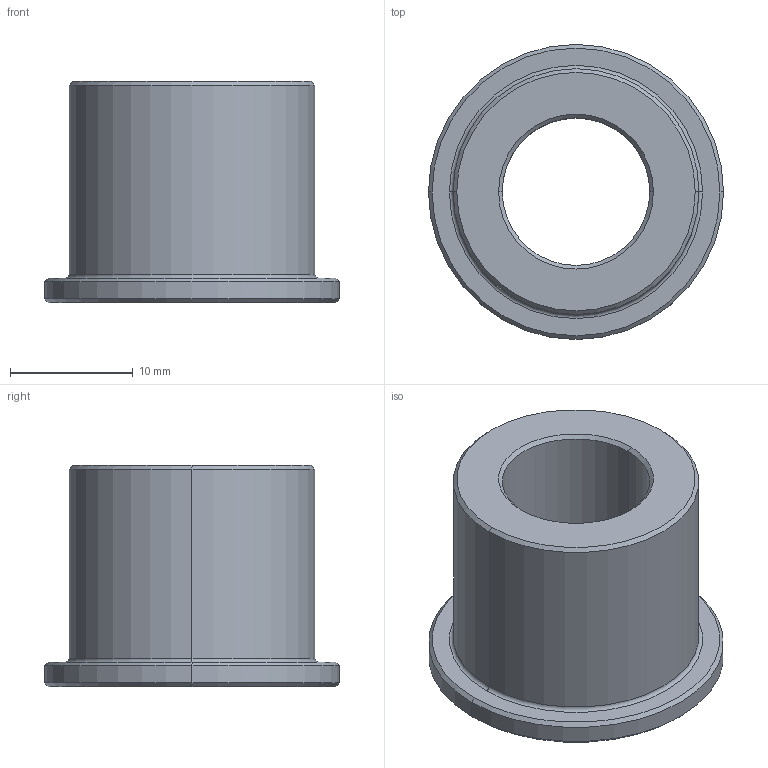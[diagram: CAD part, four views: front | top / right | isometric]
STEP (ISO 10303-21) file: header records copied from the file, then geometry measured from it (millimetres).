
FILE_DESCRIPTION (( 'STEP AP214' ), '1' );
FILE_NAME ('SBNA-20M12.STEP', '2019-11-11T06:55:29', ( '微软用户' ), ( '微软中国' ), 'SwSTEP 2.0', 'SolidWorks 2016', '' );
FILE_SCHEMA (( 'AUTOMOTIVE_DESIGN' ));
Length unit declared in the file: millimetre
Products named in the file (1): SBNA-20M12
Bounding box: 24 x 24 x 18 mm (x, y, z)
Volume: 3883.8 mm3; surface area: 2454.3 mm2
Topology: 1 solids, 1 shells, 21 faces, 42 edges, 24 vertices
Faces by surface type: cone 10, cylinder 6, plane 3, torus 2
Entity records: 584 total; most frequent: DIRECTION 112, CARTESIAN_POINT 88, ORIENTED_EDGE 84, AXIS2_PLACEMENT_3D 48, EDGE_CURVE 42, CIRCLE 26, EDGE_LOOP 24, VERTEX_POINT 24
